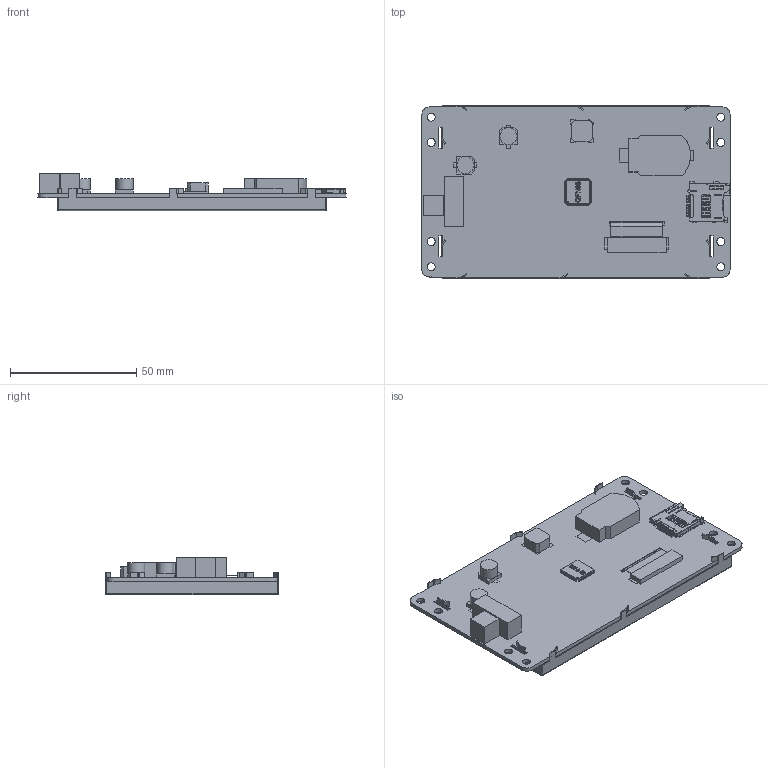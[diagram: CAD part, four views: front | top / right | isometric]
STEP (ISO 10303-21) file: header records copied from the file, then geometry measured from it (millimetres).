
FILE_DESCRIPTION(/* description */ (''),/* implementation_level */ '2;1');
FILE_NAME(/* name */ '',/* time_stamp */ '2022-04-19T14:25:54+08:00',/* author */ (''),/* organization */ (''),/* preprocessor_version */ 'ST-DEVELOPER v11',/* originating_system */ 'SIEMENS PLM Software NX 7.5',/* authorisation */ '');
FILE_SCHEMA (('AP203_CONFIGURATION_CONTROLLED_3D_DESIGN_OF_MECHANICAL_PARTS_AND_ASSEMBLIES_MIM_LF'));
Products named in the file (1): SDWb043T43N
Bounding box: 121.9 x 68.2 x 15 mm (x, y, z)
Volume: 46471.8 mm3; surface area: 45321.1 mm2
Topology: 17 solids, 17 shells, 2207 faces, 7143 edges, 5900 vertices
Faces by surface type: plane 1777, cylinder 421, bspline 7, cone 1, extrusion 1
Full cylindrical faces by diameter (mm): 3.2 x8, 6.776 x2
Entity records: 81285 total; most frequent: CARTESIAN_POINT 14559, ORIENTED_EDGE 12712, DIRECTION 12232, EDGE_CURVE 6356, VECTOR 6166, LINE 6165, VERTEX_POINT 4183, AXIS2_PLACEMENT_3D 3033
